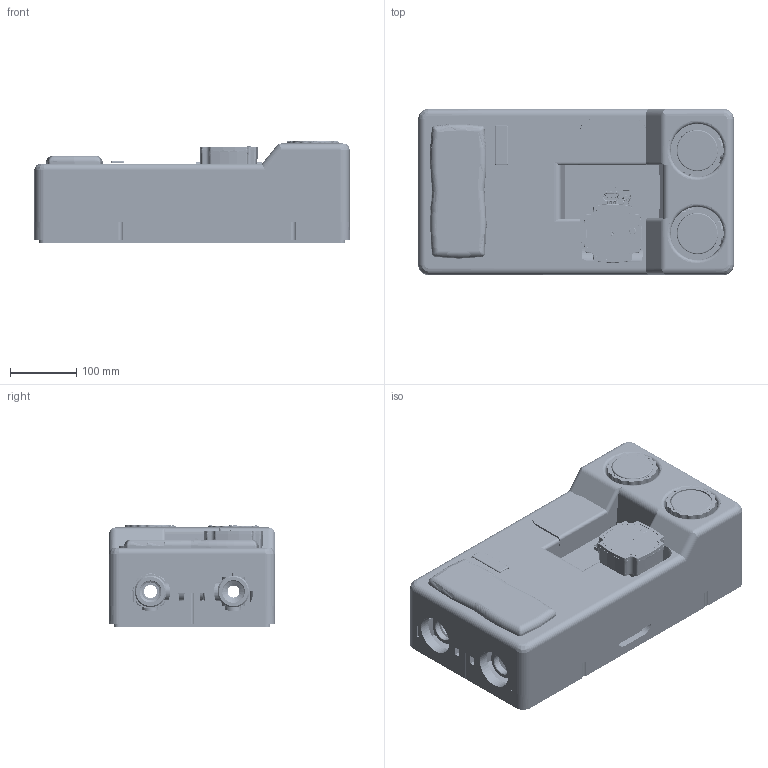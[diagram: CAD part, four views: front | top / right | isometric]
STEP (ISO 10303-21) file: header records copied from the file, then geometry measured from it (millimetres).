
FILE_DESCRIPTION (( 'STEP AP214' ), '1' );
FILE_NAME ('180-2.STEP', '2022-02-02T09:27:19', ( '' ), ( '' ), 'SwSTEP 2.0', 'SolidWorks 2021', '' );
FILE_SCHEMA (( 'AUTOMOTIVE_DESIGN' ));
Length unit declared in the file: millimetre
Products named in the file (130): HANDRAD_05 00 410222; Einleger 1_05 00 410617; Pumpeneinlegeteil 05 00 410614_Pumpeneinlegeteil; DECKGLAS; SPINDEL_05 00 410197; T-St_X_FCck MS neu; ZAHNSCHEIBE_906797 8400; Einspritzbolzen M5_05 01 000394; STEG_11; 180-2; Mitnahme-Blech_05 00 410240_2; STEG_13; 05 01 000392_Mischergeh_X_E4use DN 25; STEG_15; BLECHLASCHE; 907380 0001_FKS-DIN7380_2-10.9-TX20-(A2K)-M4X12_0_3; Unterteil _X_DCberarbeitet_05 00 410612; 05 01 01 81_3-W-Mischer DN25 varoKVS; 05 00 410411_05 00 410411; 0_0_0; STEGE_2; druck seite; STEG_6; DRUCK; 0_0_0_8; Einlegeteile Stellantrieb_05 00 410617; STEG_22; Einschraubk_X_F6rper_05 00 410483; 05 01 000474_T-St_X_FCck DN25 vorm.; 0_0_0_6; STEG_14; Halter unten; 05 01 000476_Halteplatte f. Stellmotor; STEG_3; Einschraubk_X_F6rper_05 00 410483_2; STEG_25; OEM00143.1__3D_UPM3_HYBRID_SS.1.8; Druck vorne; HANDRAD_05 00 410222_2; OEM00143.1__3D_UPM3_HYBRID_SS.1.10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
Assembly tree (129 placements, depth 10):
  180-2
    PrimoTherm 180-2 DN25 3WM-SM Vario_77300
      R_X_DCCKLAUFSTRANG
        05 00 32 11_ R_X_FCcklaufstrang PrimoTherm vorm.
          05 00 410412_05 00 410112
            Einschraubk_X_F6rper_05 00 410483
          HANDRAD_05 00 410222
            HANDRAD_05 00 410222
            STEGE
            0_0_0
              0_0_0_2
                STEG
                STEG_2
                STEG_3
                0_0_0_3
                  STEG_4
                  STEG_5
              0_0_0_4
                STEG_6
                STEG_7
                STEG_8
                STEG_9
              0_0_0_5
                STEG_10
                STEG_11
                STEG_12
                STEG_13
            Tauchh_X_FClse_05 00 410223
            ZAHNSCHEIBE_906797 8400
            Mitnahme-Blech_05 00 410240
              BLECHLASCHE
        05 00 41 87_Bi-Th NG63 0-120_X_B0C blau RSK
          zifferblatt_Baugruppe_0
            DECKGLAS
            ZIFFERBLATT
            ZEIGER
            Bedruckung02
            Ring-blau
            Bedruckung
              Bedruckung
              Afriso Logo
        05 00 410237__X_DCberwurfmutter G1 1_2
      VORLAUFSTRANG
        05 00 41 20_Bi-Th. NG63 0-120_X_B0C rot_0
          DECKGLAS_2
          ZIFFERBLATT_2
          ZEIGER_2
          DRUCK
        Baugruppe_05 00 32 10
          05 00 32 10_Pumpenkugelhahn VL vorm.
            05 00 410411_05 00 410411
              Einschraubk_X_F6rper_05 00 410483_2
              SPINDEL_05 00 410197
                SPINDEL_05 00 410197
                O-RING 8,73X1,78_801 000 0202
                O-RING 8,73X1,78_O-Ring 8,73x1,78_15_
            HANDRAD_05 00 410222_2
              HANDRAD_05 00 410222_2
              STEGE_2
              0_0_0_6
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Bounding box: 475 x 250.01 x 154.79 mm (x, y, z)
Volume: 8316516.4 mm3; surface area: 1322622 mm2
Topology: 218 solids, 227 shells, 10047 faces, 26558 edges, 16918 vertices
Faces by surface type: plane 4683, cylinder 2575, bspline 1900, cone 645, torus 239, sphere 5
Entity records: 554421 total; most frequent: CARTESIAN_POINT 211157, ORIENTED_EDGE 52798, DIRECTION 39814, EDGE_CURVE 26433, VERTEX_POINT 16916, VECTOR 13326, LINE 13326, AXIS2_PLACEMENT_3D 13244
